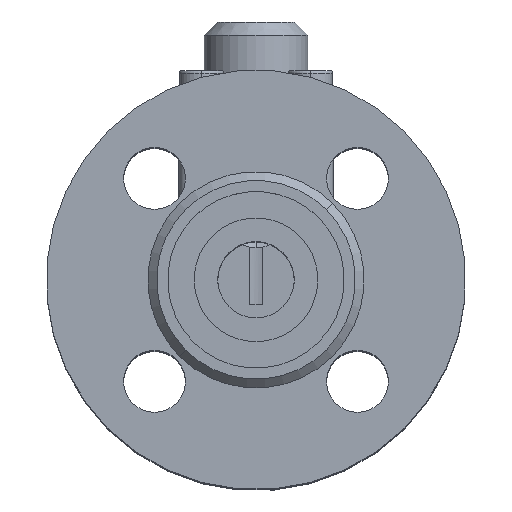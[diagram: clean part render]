
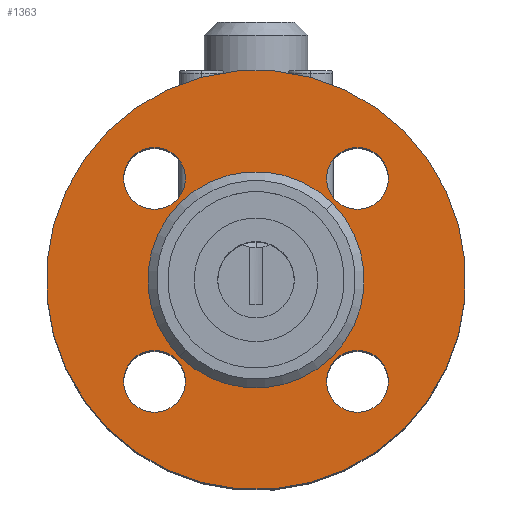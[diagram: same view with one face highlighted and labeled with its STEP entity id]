
A CAD part, top view. The second image highlights one B-rep face of the part: STEP entity #1363.
In plain terms, the highlighted planar face has unit normal (0, 0, 1) as drawn and (0, -1, 0) by its records, which use the part's own axes.
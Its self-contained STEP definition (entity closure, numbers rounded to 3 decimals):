
#270 = EDGE_CURVE ( 'NONE', #10065, #10273, #16373, .T. ) ;
#626 = ORIENTED_EDGE ( 'NONE', *, *, #270, .T. ) ;
#17215 = EDGE_LOOP ( 'NONE', ( #15959, #14785 ) ) ;
#1084 = CARTESIAN_POINT ( 'NONE',  ( -47.5, 2., 0. ) ) ;
#1130 = EDGE_LOOP ( 'NONE', ( #626, #19776 ) ) ;
#17594 = ORIENTED_EDGE ( 'NONE', *, *, #12058, .T. ) ;
#17603 = CARTESIAN_POINT ( 'NONE',  ( -7., 2., -32.5 ) ) ;
#1259 = CIRCLE ( 'NONE', #1260, 47.5 ) ;
#1260 = AXIS2_PLACEMENT_3D ( 'NONE', #1261, #1262, #1263 ) ;
#1261 = CARTESIAN_POINT ( 'NONE',  ( 0., 2., 0. ) ) ;
#1262 = DIRECTION ( 'NONE',  ( 0., 1., 0. ) ) ;
#1263 = DIRECTION ( 'NONE',  ( -1., 0., 0. ) ) ;
#1363 = ADVANCED_FACE ( 'NONE', ( #18613, #18617, #18618, #18619, #18620, #18621 ), #18622, .F. ) ;
#17756 = CIRCLE ( 'NONE', #17757, 47.5 ) ;
#17757 = AXIS2_PLACEMENT_3D ( 'NONE', #17758, #17759, #17760 ) ;
#17758 = CARTESIAN_POINT ( 'NONE',  ( 0., 2., 0. ) ) ;
#17759 = DIRECTION ( 'NONE',  ( 0., 1., 0. ) ) ;
#17760 = DIRECTION ( 'NONE',  ( -1., 0., 0. ) ) ;
#17864 = ORIENTED_EDGE ( 'NONE', *, *, #10703, .T. ) ;
#17876 = CARTESIAN_POINT ( 'NONE',  ( 7., 2., -32.5 ) ) ;
#18136 = EDGE_CURVE ( 'NONE', #10772, #10998, #17756, .T. ) ;
#18554 = CIRCLE ( 'NONE', #18555, 7. ) ;
#18555 = AXIS2_PLACEMENT_3D ( 'NONE', #18556, #18557, #18558 ) ;
#18556 = CARTESIAN_POINT ( 'NONE',  ( 0., 2., -32.5 ) ) ;
#18557 = DIRECTION ( 'NONE',  ( 0., 1., 0. ) ) ;
#18558 = DIRECTION ( 'NONE',  ( -1., 0., 0. ) ) ;
#18613 = FACE_BOUND ( 'NONE', #1130, .T. ) ;
#18617 = FACE_BOUND ( 'NONE', #19543, .T. ) ;
#18618 = FACE_BOUND ( 'NONE', #7153, .T. ) ;
#18619 = FACE_BOUND ( 'NONE', #17215, .T. ) ;
#18620 = FACE_OUTER_BOUND ( 'NONE', #14539, .T. ) ;
#18621 = FACE_BOUND ( 'NONE', #13293, .T. ) ;
#18622 = PLANE ( 'NONE',  #18623 ) ;
#18623 = AXIS2_PLACEMENT_3D ( 'NONE', #18624, #18625, #18626 ) ;
#18624 = CARTESIAN_POINT ( 'NONE',  ( 24.5, 2., 0. ) ) ;
#18625 = DIRECTION ( 'NONE',  ( 0., 1., 0. ) ) ;
#18626 = DIRECTION ( 'NONE',  ( -1., 0., 0. ) ) ;
#18667 = EDGE_CURVE ( 'NONE', #11909, #7209, #4951, .T. ) ;
#18903 = CIRCLE ( 'NONE', #18904, 7. ) ;
#18904 = AXIS2_PLACEMENT_3D ( 'NONE', #18905, #18906, #18907 ) ;
#18905 = CARTESIAN_POINT ( 'NONE',  ( -32.5, 2., 0. ) ) ;
#18906 = DIRECTION ( 'NONE',  ( 0., 1., 0. ) ) ;
#18907 = DIRECTION ( 'NONE',  ( -1., 0., 0. ) ) ;
#2639 = CARTESIAN_POINT ( 'NONE',  ( -39.5, 2., 0. ) ) ;
#2640 = CARTESIAN_POINT ( 'NONE',  ( 7., 2., 32.5 ) ) ;
#19038 = ORIENTED_EDGE ( 'NONE', *, *, #18667, .T. ) ;
#2703 = CIRCLE ( 'NONE', #2704, 7. ) ;
#2704 = AXIS2_PLACEMENT_3D ( 'NONE', #2705, #2706, #2707 ) ;
#2705 = CARTESIAN_POINT ( 'NONE',  ( 0., 2., 32.5 ) ) ;
#2706 = DIRECTION ( 'NONE',  ( 0., 1., 0. ) ) ;
#2707 = DIRECTION ( 'NONE',  ( -1., 0., 0. ) ) ;
#19291 = CARTESIAN_POINT ( 'NONE',  ( 47.5, 2., 0. ) ) ;
#3013 = CARTESIAN_POINT ( 'NONE',  ( 25.5, 2., 0. ) ) ;
#19543 = EDGE_LOOP ( 'NONE', ( #19038, #17864 ) ) ;
#19697 = CIRCLE ( 'NONE', #19698, 24.5 ) ;
#19698 = AXIS2_PLACEMENT_3D ( 'NONE', #19699, #19700, #19701 ) ;
#19699 = CARTESIAN_POINT ( 'NONE',  ( 0., 2., 0. ) ) ;
#19700 = DIRECTION ( 'NONE',  ( 0., 1., 0. ) ) ;
#19701 = DIRECTION ( 'NONE',  ( -1., 0., 0. ) ) ;
#19776 = ORIENTED_EDGE ( 'NONE', *, *, #10497, .T. ) ;
#3419 = CARTESIAN_POINT ( 'NONE',  ( 39.5, 2., 0. ) ) ;
#4063 = VERTEX_POINT ( 'NONE', #7384 ) ;
#4288 = EDGE_CURVE ( 'NONE', #4063, #5307, #8406, .T. ) ;
#4951 = CIRCLE ( 'NONE', #4954, 7. ) ;
#4954 = AXIS2_PLACEMENT_3D ( 'NONE', #4955, #4956, #4957 ) ;
#4955 = CARTESIAN_POINT ( 'NONE',  ( -32.5, 2., 0. ) ) ;
#4956 = DIRECTION ( 'NONE',  ( 0., 1., 0. ) ) ;
#4957 = DIRECTION ( 'NONE',  ( -1., 0., 0. ) ) ;
#4997 = CIRCLE ( 'NONE', #4998, 7. ) ;
#4998 = AXIS2_PLACEMENT_3D ( 'NONE', #4999, #5000, #5001 ) ;
#4999 = CARTESIAN_POINT ( 'NONE',  ( 32.5, 2., 0. ) ) ;
#5000 = DIRECTION ( 'NONE',  ( 0., 1., 0. ) ) ;
#5001 = DIRECTION ( 'NONE',  ( -1., 0., 0. ) ) ;
#5307 = VERTEX_POINT ( 'NONE', #10553 ) ;
#6283 = EDGE_CURVE ( 'NONE', #6471, #11910, #11877, .T. ) ;
#6451 = ORIENTED_EDGE ( 'NONE', *, *, #10866, .T. ) ;
#6471 = VERTEX_POINT ( 'NONE', #11982 ) ;
#6653 = ORIENTED_EDGE ( 'NONE', *, *, #6283, .T. ) ;
#6882 = ORIENTED_EDGE ( 'NONE', *, *, #4288, .T. ) ;
#7153 = EDGE_LOOP ( 'NONE', ( #6653, #17594 ) ) ;
#7209 = VERTEX_POINT ( 'NONE', #13665 ) ;
#7384 = CARTESIAN_POINT ( 'NONE',  ( -24.5, 2., 0. ) ) ;
#8406 = CIRCLE ( 'NONE', #8407, 24.5 ) ;
#8407 = AXIS2_PLACEMENT_3D ( 'NONE', #8408, #8409, #8410 ) ;
#8408 = CARTESIAN_POINT ( 'NONE',  ( 0., 2., 0. ) ) ;
#8409 = DIRECTION ( 'NONE',  ( 0., 1., 0. ) ) ;
#8410 = DIRECTION ( 'NONE',  ( -1., 0., 0. ) ) ;
#10065 = VERTEX_POINT ( 'NONE', #17603 ) ;
#10273 = VERTEX_POINT ( 'NONE', #17876 ) ;
#10497 = EDGE_CURVE ( 'NONE', #10273, #10065, #18554, .T. ) ;
#10553 = CARTESIAN_POINT ( 'NONE',  ( 24.5, 2., 0. ) ) ;
#10703 = EDGE_CURVE ( 'NONE', #7209, #11909, #18903, .T. ) ;
#10772 = VERTEX_POINT ( 'NONE', #19291 ) ;
#10866 = EDGE_CURVE ( 'NONE', #5307, #4063, #19697, .T. ) ;
#10998 = VERTEX_POINT ( 'NONE', #1084 ) ;
#11213 = EDGE_CURVE ( 'NONE', #10998, #10772, #1259, .T. ) ;
#11484 = CIRCLE ( 'NONE', #11485, 7. ) ;
#11485 = AXIS2_PLACEMENT_3D ( 'NONE', #11486, #11487, #11488 ) ;
#11486 = CARTESIAN_POINT ( 'NONE',  ( 32.5, 2., 0. ) ) ;
#11487 = DIRECTION ( 'NONE',  ( 0., 1., 0. ) ) ;
#11488 = DIRECTION ( 'NONE',  ( -1., 0., 0. ) ) ;
#11877 = CIRCLE ( 'NONE', #11878, 7. ) ;
#11878 = AXIS2_PLACEMENT_3D ( 'NONE', #11879, #11880, #11881 ) ;
#11879 = CARTESIAN_POINT ( 'NONE',  ( 0., 2., 32.5 ) ) ;
#11880 = DIRECTION ( 'NONE',  ( 0., 1., 0. ) ) ;
#11881 = DIRECTION ( 'NONE',  ( -1., 0., 0. ) ) ;
#11909 = VERTEX_POINT ( 'NONE', #2639 ) ;
#11910 = VERTEX_POINT ( 'NONE', #2640 ) ;
#11982 = CARTESIAN_POINT ( 'NONE',  ( -7., 2., 32.5 ) ) ;
#12058 = EDGE_CURVE ( 'NONE', #11910, #6471, #2703, .T. ) ;
#12150 = VERTEX_POINT ( 'NONE', #3013 ) ;
#12363 = VERTEX_POINT ( 'NONE', #3419 ) ;
#12579 = EDGE_CURVE ( 'NONE', #12363, #12150, #4997, .T. ) ;
#13293 = EDGE_LOOP ( 'NONE', ( #6882, #6451 ) ) ;
#13527 = ORIENTED_EDGE ( 'NONE', *, *, #18136, .F. ) ;
#13665 = CARTESIAN_POINT ( 'NONE',  ( -25.5, 2., 0. ) ) ;
#14031 = ORIENTED_EDGE ( 'NONE', *, *, #11213, .F. ) ;
#14539 = EDGE_LOOP ( 'NONE', ( #14031, #13527 ) ) ;
#14785 = ORIENTED_EDGE ( 'NONE', *, *, #12579, .T. ) ;
#15295 = EDGE_CURVE ( 'NONE', #12150, #12363, #11484, .T. ) ;
#15959 = ORIENTED_EDGE ( 'NONE', *, *, #15295, .T. ) ;
#16373 = CIRCLE ( 'NONE', #16374, 7. ) ;
#16374 = AXIS2_PLACEMENT_3D ( 'NONE', #16375, #16376, #16377 ) ;
#16375 = CARTESIAN_POINT ( 'NONE',  ( 0., 2., -32.5 ) ) ;
#16376 = DIRECTION ( 'NONE',  ( 0., 1., 0. ) ) ;
#16377 = DIRECTION ( 'NONE',  ( -1., 0., 0. ) ) ;
